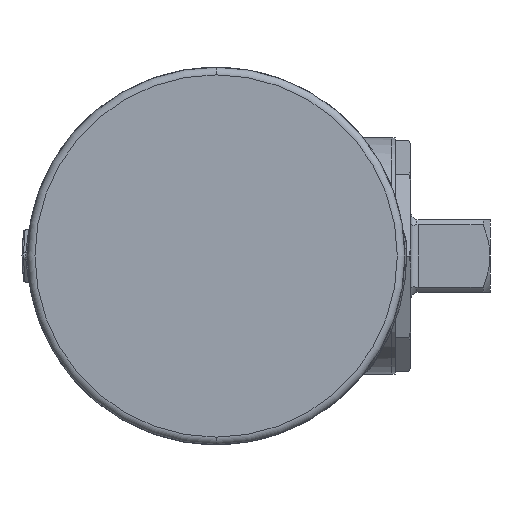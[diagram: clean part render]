
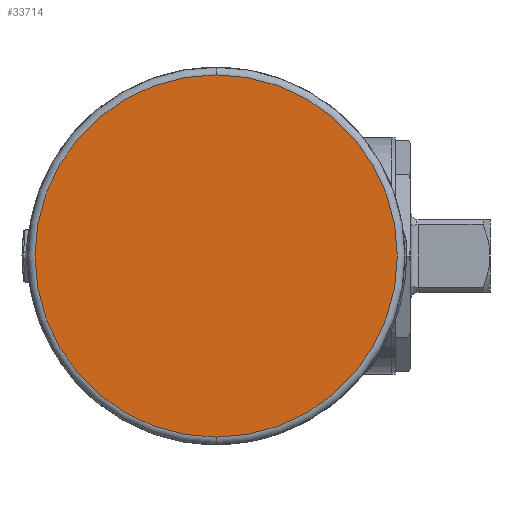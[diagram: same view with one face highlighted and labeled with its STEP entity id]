
A CAD part, left-side view. The second image highlights one B-rep face of the part: STEP entity #33714.
In plain terms, the highlighted planar face has unit normal (-1, 0, 0).
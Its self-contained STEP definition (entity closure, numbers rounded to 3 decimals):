
#4643 = DIRECTION ( 'NONE',  ( -1., 0., 0. ) ) ;
#5124 = CARTESIAN_POINT ( 'NONE',  ( -183.5, 0., 0. ) ) ;
#7555 = CIRCLE ( 'NONE', #47706, 23.75 ) ;
#9170 = EDGE_CURVE ( 'NONE', #37671, #10518, #15342, .T. ) ;
#10518 = VERTEX_POINT ( 'NONE', #34896 ) ;
#15124 = AXIS2_PLACEMENT_3D ( 'NONE', #5124, #17202, #36708 ) ;
#15304 = DIRECTION ( 'NONE',  ( 0., 0., 1. ) ) ;
#15342 = CIRCLE ( 'NONE', #42371, 23.75 ) ;
#17202 = DIRECTION ( 'NONE',  ( -1., 0., 0. ) ) ;
#17440 = DIRECTION ( 'NONE',  ( -1., 0., 0. ) ) ;
#20338 = DIRECTION ( 'NONE',  ( 0., 0., 1. ) ) ;
#24203 = CARTESIAN_POINT ( 'NONE',  ( -183.5, 0., 0. ) ) ;
#25189 = PLANE ( 'NONE',  #15124 ) ;
#26629 = CARTESIAN_POINT ( 'NONE',  ( -183.5, 0., 0. ) ) ;
#29060 = FACE_OUTER_BOUND ( 'NONE', #42561, .T. ) ;
#33714 = ADVANCED_FACE ( 'NONE', ( #29060 ), #25189, .T. ) ;
#34896 = CARTESIAN_POINT ( 'NONE',  ( -183.5, 0., 23.75 ) ) ;
#36708 = DIRECTION ( 'NONE',  ( 0., 0., 1. ) ) ;
#37671 = VERTEX_POINT ( 'NONE', #44488 ) ;
#40686 = EDGE_CURVE ( 'NONE', #10518, #37671, #7555, .T. ) ;
#42371 = AXIS2_PLACEMENT_3D ( 'NONE', #24203, #4643, #20338 ) ;
#42561 = EDGE_LOOP ( 'NONE', ( #47153, #47055 ) ) ;
#44488 = CARTESIAN_POINT ( 'NONE',  ( -183.5, 0., -23.75 ) ) ;
#47055 = ORIENTED_EDGE ( 'NONE', *, *, #9170, .T. ) ;
#47153 = ORIENTED_EDGE ( 'NONE', *, *, #40686, .T. ) ;
#47706 = AXIS2_PLACEMENT_3D ( 'NONE', #26629, #17440, #15304 ) ;
